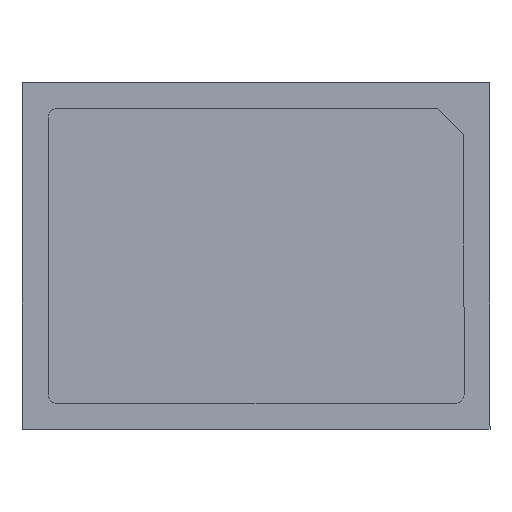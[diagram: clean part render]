
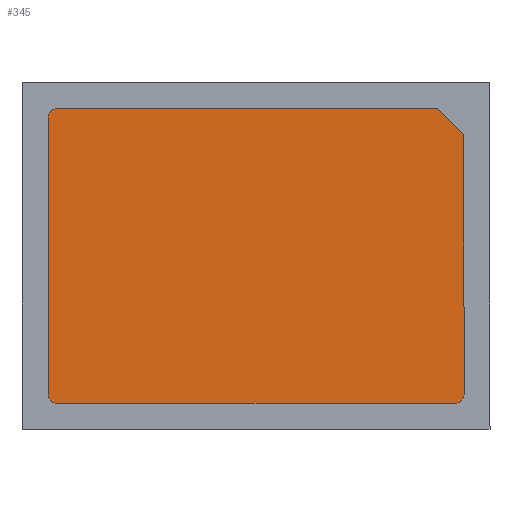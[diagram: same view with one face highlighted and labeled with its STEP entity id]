
A CAD part, top view. The second image highlights one B-rep face of the part: STEP entity #345.
In plain terms, the highlighted planar face has unit normal (0, 0, 1).
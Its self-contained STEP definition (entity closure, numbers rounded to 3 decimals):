
#3 = AXIS2_PLACEMENT_3D ( 'NONE', #11, #408, #405 ) ;
#9 = DIRECTION ( 'NONE',  ( 0.707, 0.707, 0. ) ) ;
#11 = CARTESIAN_POINT ( 'NONE',  ( -0.8, 1.15, 0. ) ) ;
#23 = LINE ( 'NONE', #115, #328 ) ;
#37 = VECTOR ( 'NONE', #382, 1000. ) ;
#40 = DIRECTION ( 'NONE',  ( 0., -1., 0. ) ) ;
#42 = CARTESIAN_POINT ( 'NONE',  ( 0.85, -1.05, 0. ) ) ;
#49 = VERTEX_POINT ( 'NONE', #198 ) ;
#50 = DIRECTION ( 'NONE',  ( 0., 1., 0. ) ) ;
#53 = EDGE_CURVE ( 'NONE', #224, #166, #255, .T. ) ;
#54 = CARTESIAN_POINT ( 'NONE',  ( 0., -1.2, 0. ) ) ;
#57 = VECTOR ( 'NONE', #90, 1000. ) ;
#58 = ORIENTED_EDGE ( 'NONE', *, *, #277, .T. ) ;
#66 = CIRCLE ( 'NONE', #3, 0.05 ) ;
#72 = CARTESIAN_POINT ( 'NONE',  ( -0.8, -1.2, 0. ) ) ;
#85 = PLANE ( 'NONE',  #109 ) ;
#89 = VERTEX_POINT ( 'NONE', #72 ) ;
#90 = DIRECTION ( 'NONE',  ( 0., -1., 0. ) ) ;
#100 = VERTEX_POINT ( 'NONE', #372 ) ;
#101 = EDGE_CURVE ( 'NONE', #413, #224, #292, .T. ) ;
#109 = AXIS2_PLACEMENT_3D ( 'NONE', #402, #132, #40 ) ;
#115 = CARTESIAN_POINT ( 'NONE',  ( -0.8, 1.2, 0. ) ) ;
#124 = ORIENTED_EDGE ( 'NONE', *, *, #196, .T. ) ;
#132 = DIRECTION ( 'NONE',  ( 0., 0., -1. ) ) ;
#137 = EDGE_CURVE ( 'NONE', #194, #49, #66, .T. ) ;
#141 = CARTESIAN_POINT ( 'NONE',  ( 0.85, 1.15, 0. ) ) ;
#142 = AXIS2_PLACEMENT_3D ( 'NONE', #228, #287, #261 ) ;
#146 = CARTESIAN_POINT ( 'NONE',  ( 0.8, 1.15, 0. ) ) ;
#158 = ORIENTED_EDGE ( 'NONE', *, *, #101, .T. ) ;
#161 = AXIS2_PLACEMENT_3D ( 'NONE', #146, #311, #50 ) ;
#166 = VERTEX_POINT ( 'NONE', #141 ) ;
#175 = CARTESIAN_POINT ( 'NONE',  ( -0.85, -1.15, 0. ) ) ;
#183 = EDGE_LOOP ( 'NONE', ( #250, #58, #214, #275, #221, #326, #124, #158 ) ) ;
#193 = VECTOR ( 'NONE', #394, 1000. ) ;
#194 = VERTEX_POINT ( 'NONE', #333 ) ;
#195 = VERTEX_POINT ( 'NONE', #175 ) ;
#196 = EDGE_CURVE ( 'NONE', #89, #413, #294, .T. ) ;
#198 = CARTESIAN_POINT ( 'NONE',  ( -0.85, 1.15, 0. ) ) ;
#208 = EDGE_CURVE ( 'NONE', #49, #195, #419, .T. ) ;
#214 = ORIENTED_EDGE ( 'NONE', *, *, #324, .T. ) ;
#221 = ORIENTED_EDGE ( 'NONE', *, *, #208, .T. ) ;
#224 = VERTEX_POINT ( 'NONE', #280 ) ;
#228 = CARTESIAN_POINT ( 'NONE',  ( -0.8, -1.15, 0. ) ) ;
#240 = DIRECTION ( 'NONE',  ( -1., 0., 0. ) ) ;
#245 = CARTESIAN_POINT ( 'NONE',  ( -0.85, -1.15, 0. ) ) ;
#250 = ORIENTED_EDGE ( 'NONE', *, *, #53, .T. ) ;
#255 = LINE ( 'NONE', #358, #193 ) ;
#256 = CARTESIAN_POINT ( 'NONE',  ( 0.7, -1.2, 0. ) ) ;
#261 = DIRECTION ( 'NONE',  ( 0., -1., 0. ) ) ;
#275 = ORIENTED_EDGE ( 'NONE', *, *, #137, .T. ) ;
#277 = EDGE_CURVE ( 'NONE', #166, #100, #366, .T. ) ;
#280 = CARTESIAN_POINT ( 'NONE',  ( 0.85, -1.05, 0. ) ) ;
#287 = DIRECTION ( 'NONE',  ( 0., 0., 1. ) ) ;
#292 = LINE ( 'NONE', #42, #309 ) ;
#294 = LINE ( 'NONE', #54, #37 ) ;
#309 = VECTOR ( 'NONE', #9, 1000. ) ;
#311 = DIRECTION ( 'NONE',  ( 0., 0., 1. ) ) ;
#324 = EDGE_CURVE ( 'NONE', #100, #194, #23, .T. ) ;
#326 = ORIENTED_EDGE ( 'NONE', *, *, #355, .T. ) ;
#328 = VECTOR ( 'NONE', #240, 1000. ) ;
#333 = CARTESIAN_POINT ( 'NONE',  ( -0.8, 1.2, 0. ) ) ;
#345 = ADVANCED_FACE ( 'NONE', ( #376 ), #85, .F. ) ;
#355 = EDGE_CURVE ( 'NONE', #195, #89, #383, .T. ) ;
#358 = CARTESIAN_POINT ( 'NONE',  ( 0.85, 0., 0. ) ) ;
#366 = CIRCLE ( 'NONE', #161, 0.05 ) ;
#372 = CARTESIAN_POINT ( 'NONE',  ( 0.8, 1.2, 0. ) ) ;
#376 = FACE_OUTER_BOUND ( 'NONE', #183, .T. ) ;
#382 = DIRECTION ( 'NONE',  ( 1., 0., 0. ) ) ;
#383 = CIRCLE ( 'NONE', #142, 0.05 ) ;
#394 = DIRECTION ( 'NONE',  ( 0., 1., 0. ) ) ;
#402 = CARTESIAN_POINT ( 'NONE',  ( 0., 0., 0. ) ) ;
#405 = DIRECTION ( 'NONE',  ( 0., 1., 0. ) ) ;
#408 = DIRECTION ( 'NONE',  ( 0., 0., 1. ) ) ;
#413 = VERTEX_POINT ( 'NONE', #256 ) ;
#419 = LINE ( 'NONE', #245, #57 ) ;
